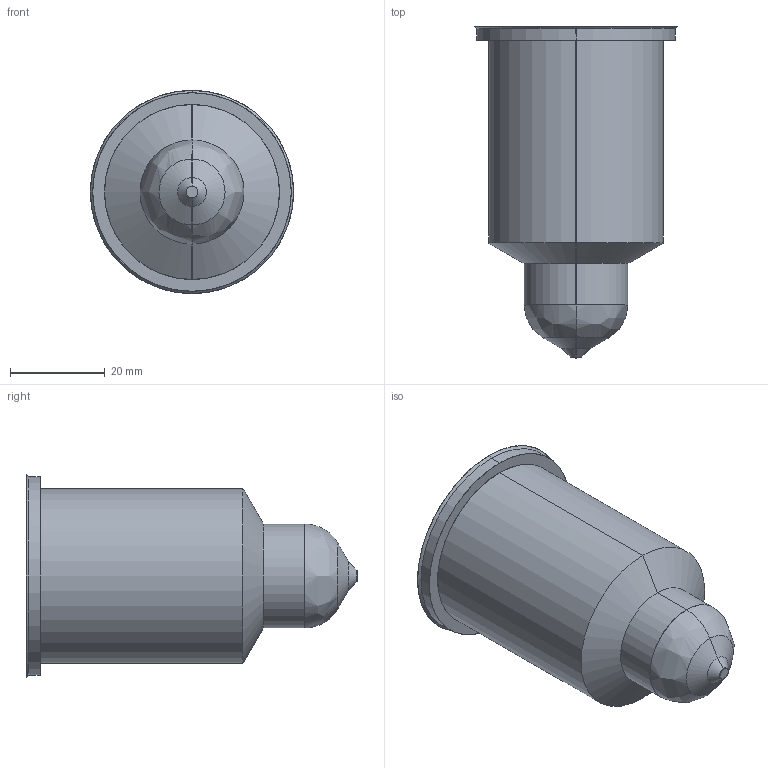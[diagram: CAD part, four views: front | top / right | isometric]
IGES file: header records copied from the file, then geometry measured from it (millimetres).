
Start section: SolidWorks IGES file using analytic representation for surfaces
Global section: file name: C:\Users\luca.EMPAD\Desktop\TEM\Sede UGDL3612-M-A C-67 L-85 Ød-2.5.IGS; native system: SolidWorks 2012; preprocessor: SolidWorks 2012; author: luca; date: 120330.161906; units: millimetre
Bounding box: 43 x 70.22 x 43 mm (x, y, z)
Surface area: 9273.4 mm2 (no closed solid volume)
Topology: 0 solids, 0 shells, 21 faces, 296 edges, 296 vertices
Faces by surface type: revolution 16, bspline 5
